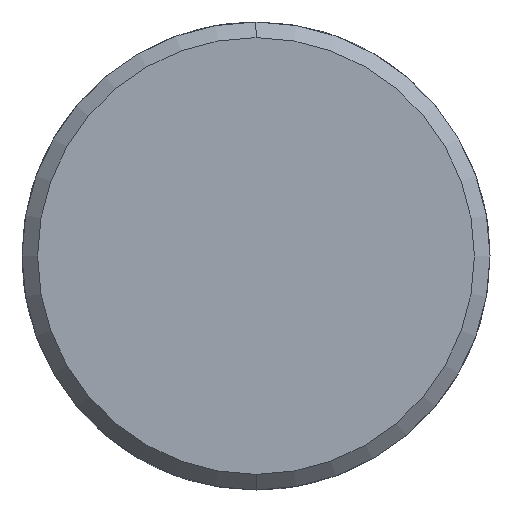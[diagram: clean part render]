
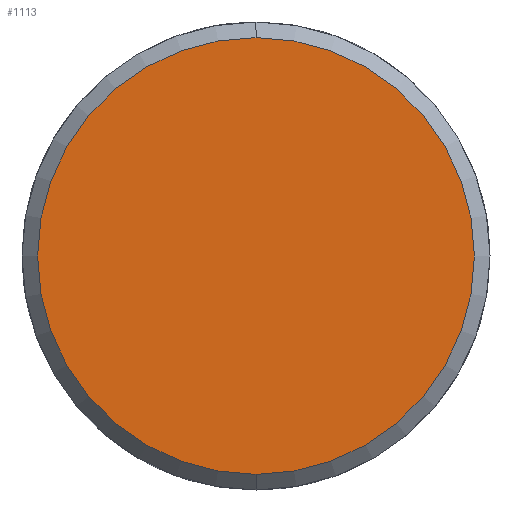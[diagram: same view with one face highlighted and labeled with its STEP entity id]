
A CAD part, left-side view. The second image highlights one B-rep face of the part: STEP entity #1113.
In plain terms, the highlighted planar face has unit normal (-1, 0, 0).
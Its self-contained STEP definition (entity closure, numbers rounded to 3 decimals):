
#1045=CARTESIAN_POINT('Vertex',(-5.,0.,-14.)) ;
#1048=CARTESIAN_POINT('Axis2P3D Location',(-5.,0.,0.)) ;
#1052=CARTESIAN_POINT('Vertex',(-5.,14.,0.)) ;
#1055=CARTESIAN_POINT('Axis2P3D Location',(-5.,0.,0.)) ;
#1059=CARTESIAN_POINT('Vertex',(-5.,0.,14.)) ;
#1081=CARTESIAN_POINT('Axis2P3D Location',(-5.,0.,0.)) ;
#1085=CARTESIAN_POINT('Vertex',(-5.,-14.,0.)) ;
#1088=CARTESIAN_POINT('Axis2P3D Location',(-5.,0.,0.)) ;
#1102=CARTESIAN_POINT('Axis2P3D Location',(-5.,0.,0.)) ;
#1049=DIRECTION('Axis2P3D Direction',(1.,0.,-0.)) ;
#1056=DIRECTION('Axis2P3D Direction',(1.,0.,-0.)) ;
#1082=DIRECTION('Axis2P3D Direction',(1.,0.,-0.)) ;
#1089=DIRECTION('Axis2P3D Direction',(1.,0.,-0.)) ;
#1103=DIRECTION('Axis2P3D Direction',(1.,0.,-0.)) ;
#1104=DIRECTION('Axis2P3D XDirection',(-0.,0.,-1.)) ;
#1050=AXIS2_PLACEMENT_3D('Circle Axis2P3D',#1048,#1049,$) ;
#1057=AXIS2_PLACEMENT_3D('Circle Axis2P3D',#1055,#1056,$) ;
#1083=AXIS2_PLACEMENT_3D('Circle Axis2P3D',#1081,#1082,$) ;
#1090=AXIS2_PLACEMENT_3D('Circle Axis2P3D',#1088,#1089,$) ;
#1105=AXIS2_PLACEMENT_3D('Plane Axis2P3D',#1102,#1103,#1104) ;
#1108=ORIENTED_EDGE('',*,*,#1054,.F.) ;
#1109=ORIENTED_EDGE('',*,*,#1092,.F.) ;
#1110=ORIENTED_EDGE('',*,*,#1087,.F.) ;
#1111=ORIENTED_EDGE('',*,*,#1061,.F.) ;
#1113=ADVANCED_FACE('351-18X36X70',(#1112),#1106,.F.) ;
#1051=CIRCLE('generated circle',#1050,14.) ;
#1058=CIRCLE('generated circle',#1057,14.) ;
#1084=CIRCLE('generated circle',#1083,14.) ;
#1091=CIRCLE('generated circle',#1090,14.) ;
#1054=EDGE_CURVE('',#1046,#1053,#1051,.T.) ;
#1061=EDGE_CURVE('',#1053,#1060,#1058,.T.) ;
#1087=EDGE_CURVE('',#1060,#1086,#1084,.T.) ;
#1092=EDGE_CURVE('',#1086,#1046,#1091,.T.) ;
#1107=EDGE_LOOP('',(#1108,#1109,#1110,#1111)) ;
#1112=FACE_OUTER_BOUND('',#1107,.T.) ;
#1106=PLANE('Plane',#1105) ;
#1046=VERTEX_POINT('',#1045) ;
#1053=VERTEX_POINT('',#1052) ;
#1060=VERTEX_POINT('',#1059) ;
#1086=VERTEX_POINT('',#1085) ;
